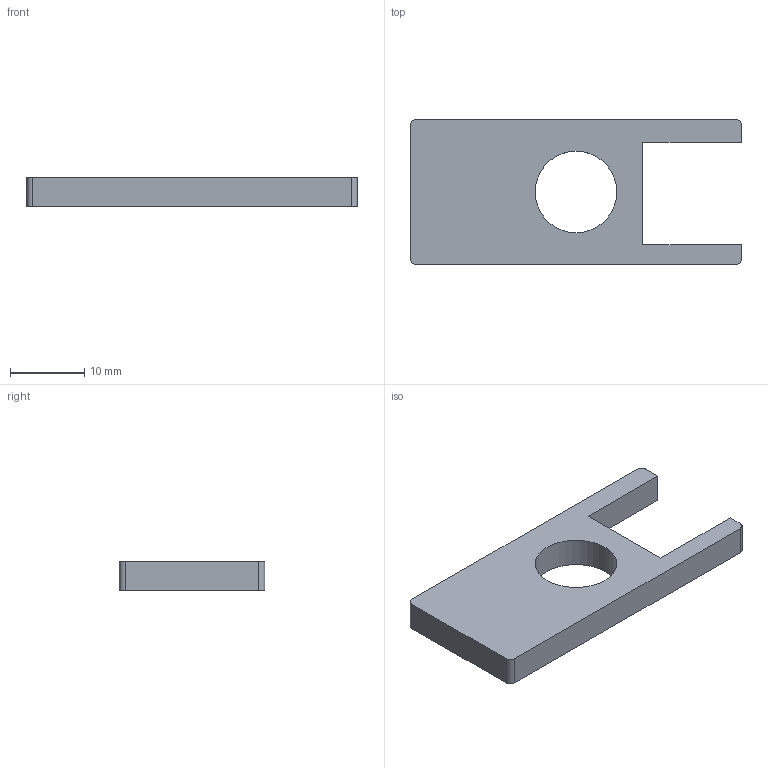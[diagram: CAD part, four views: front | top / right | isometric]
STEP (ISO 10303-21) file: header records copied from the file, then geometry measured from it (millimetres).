
FILE_DESCRIPTION(('Open CASCADE Model'),'2;1');
FILE_NAME('Open CASCADE Shape Model','2026-11-23T18:10:15',('Author'),( 'Open CASCADE'),'Open CASCADE STEP processor 8.0','build123d', 'Unknown');
FILE_SCHEMA(('AUTOMOTIVE_DESIGN { 1 0 10303 214 1 1 1 1 }'));
Length unit declared in the file: millimetre
Products named in the file (1): SOLID
Bounding box: 44.6 x 19.6 x 4 mm (x, y, z)
Volume: 2356.2 mm3; surface area: 1997.3 mm2
Topology: 1 solids, 1 shells, 19 faces, 45 edges, 30 vertices
Faces by surface type: plane 12, cylinder 7
Full cylindrical faces by diameter (mm): 1.6 x1, 2.05 x1, 11 x1
Entity records: 1154 total; most frequent: CARTESIAN_POINT 237, DIRECTION 167, LINE 91, VECTOR 91, ORIENTED_EDGE 90, PCURVE 90, DEFINITIONAL_REPRESENTATION 90, EDGE_CURVE 45
